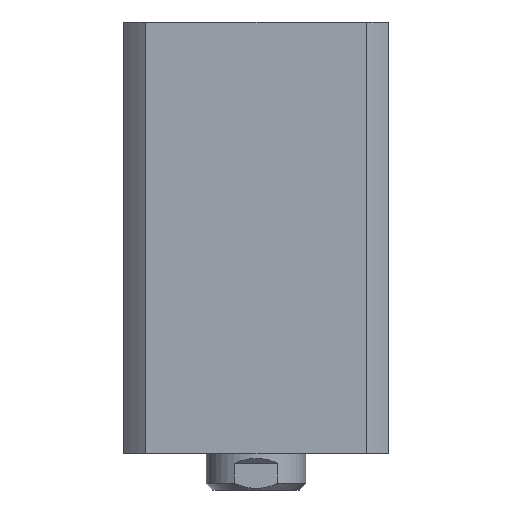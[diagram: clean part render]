
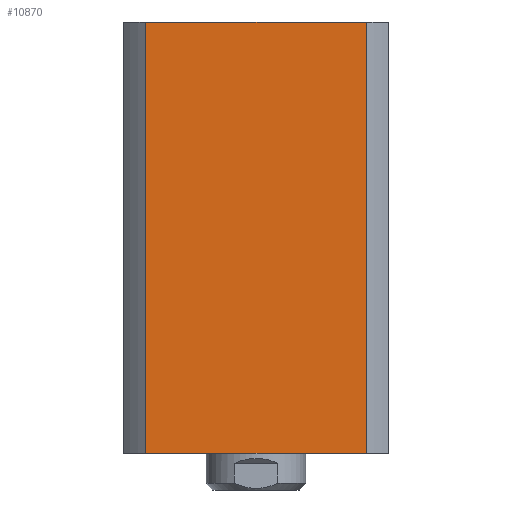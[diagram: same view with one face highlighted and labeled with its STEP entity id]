
A CAD part, left-side view. The second image highlights one B-rep face of the part: STEP entity #10870.
In plain terms, the highlighted planar face has unit normal (-1, 0, 0).
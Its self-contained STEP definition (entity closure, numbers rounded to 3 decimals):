
#14 = CARTESIAN_POINT ( 'NONE',  ( -40., -33.226, -65. ) ) ;
#186 = CARTESIAN_POINT ( 'NONE',  ( -40., 33.226, 65. ) ) ;
#281 = LINE ( 'NONE', #2624, #4366 ) ;
#302 = VERTEX_POINT ( 'NONE', #9707 ) ;
#582 = VERTEX_POINT ( 'NONE', #4600 ) ;
#1011 = CARTESIAN_POINT ( 'NONE',  ( -40., 33.226, 65. ) ) ;
#1470 = FACE_OUTER_BOUND ( 'NONE', #13780, .T. ) ;
#1932 = EDGE_CURVE ( 'NONE', #302, #2110, #9778, .T. ) ;
#2002 = EDGE_CURVE ( 'NONE', #582, #6473, #281, .T. ) ;
#2087 = DIRECTION ( 'NONE',  ( 0., -1., 0. ) ) ;
#2110 = VERTEX_POINT ( 'NONE', #8554 ) ;
#2624 = CARTESIAN_POINT ( 'NONE',  ( -40., -33.226, 65. ) ) ;
#3449 = LINE ( 'NONE', #1011, #7171 ) ;
#3554 = ORIENTED_EDGE ( 'NONE', *, *, #12378, .T. ) ;
#3666 = CARTESIAN_POINT ( 'NONE',  ( -40., 33.226, 65. ) ) ;
#3691 = LINE ( 'NONE', #4884, #9292 ) ;
#4366 = VECTOR ( 'NONE', #5339, 1000. ) ;
#4600 = CARTESIAN_POINT ( 'NONE',  ( -40., -33.226, 65. ) ) ;
#4884 = CARTESIAN_POINT ( 'NONE',  ( -40., 33.226, -65. ) ) ;
#5339 = DIRECTION ( 'NONE',  ( 0., 0., -1. ) ) ;
#5654 = DIRECTION ( 'NONE',  ( 0., 0., -1. ) ) ;
#6473 = VERTEX_POINT ( 'NONE', #14 ) ;
#6488 = ORIENTED_EDGE ( 'NONE', *, *, #2002, .F. ) ;
#6875 = VECTOR ( 'NONE', #5654, 1000. ) ;
#7171 = VECTOR ( 'NONE', #2087, 1000. ) ;
#7719 = DIRECTION ( 'NONE',  ( 0., 1., 0. ) ) ;
#7815 = DIRECTION ( 'NONE',  ( 1., 0., 0. ) ) ;
#8220 = ORIENTED_EDGE ( 'NONE', *, *, #1932, .T. ) ;
#8554 = CARTESIAN_POINT ( 'NONE',  ( -40., 33.226, -65. ) ) ;
#8864 = AXIS2_PLACEMENT_3D ( 'NONE', #186, #7815, #7719 ) ;
#9292 = VECTOR ( 'NONE', #13354, 1000. ) ;
#9707 = CARTESIAN_POINT ( 'NONE',  ( -40., 33.226, 65. ) ) ;
#9778 = LINE ( 'NONE', #3666, #6875 ) ;
#10275 = EDGE_CURVE ( 'NONE', #302, #582, #3449, .T. ) ;
#10870 = ADVANCED_FACE ( 'NONE', ( #1470 ), #12124, .F. ) ;
#12124 = PLANE ( 'NONE',  #8864 ) ;
#12378 = EDGE_CURVE ( 'NONE', #2110, #6473, #3691, .T. ) ;
#13354 = DIRECTION ( 'NONE',  ( 0., -1., 0. ) ) ;
#13780 = EDGE_LOOP ( 'NONE', ( #3554, #6488, #14037, #8220 ) ) ;
#14037 = ORIENTED_EDGE ( 'NONE', *, *, #10275, .F. ) ;
